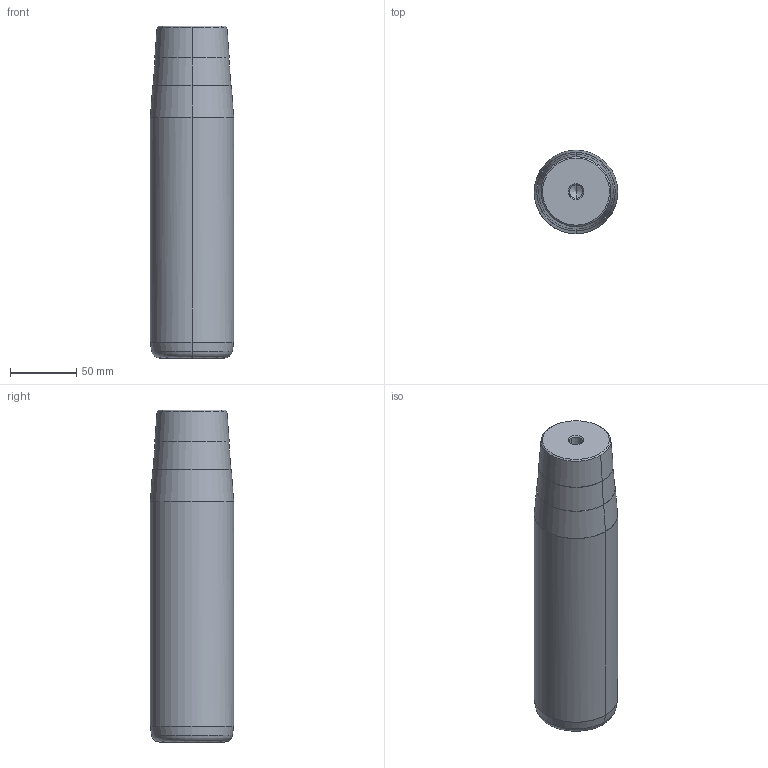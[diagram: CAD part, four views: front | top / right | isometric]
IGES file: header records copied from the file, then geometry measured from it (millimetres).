
Start section: START RECORD GO HERE.
Global section: file name: 722-63x200x251.igs; native system: DASSAULT SYSTEMES CATIA V5 R20 - www.3ds.com; preprocessor: CATIA Version 5 Release 20 ; author: Utente; organization: NB04-ASUS; date: 20210107.202452; units: millimetre
Bounding box: 63 x 63 x 251 mm (x, y, z)
Surface area: 54926.4 mm2 (no closed solid volume)
Topology: 0 solids, 0 shells, 32 faces, 192 edges, 188 vertices
Faces by surface type: revolution 30, plane 2
